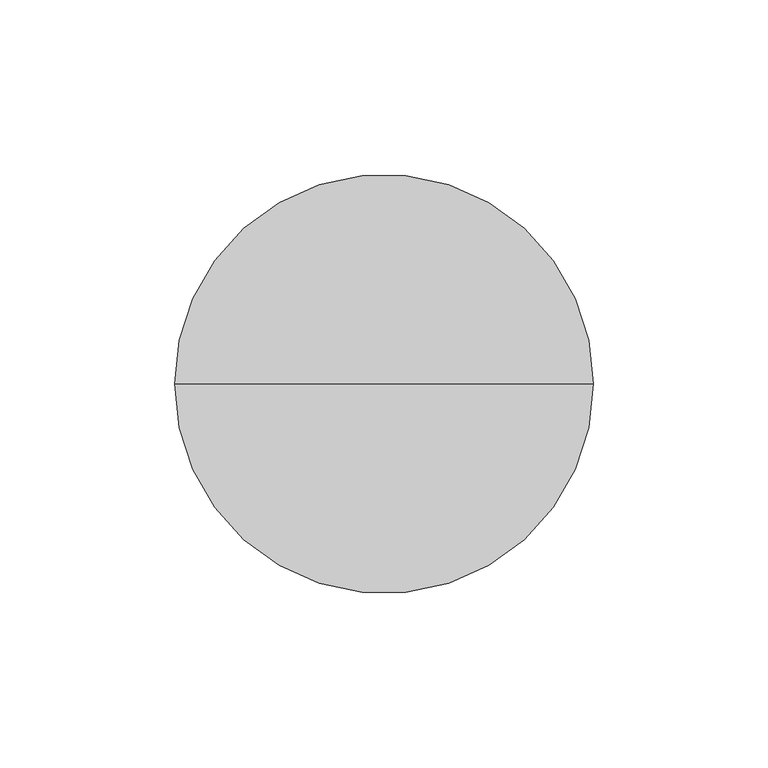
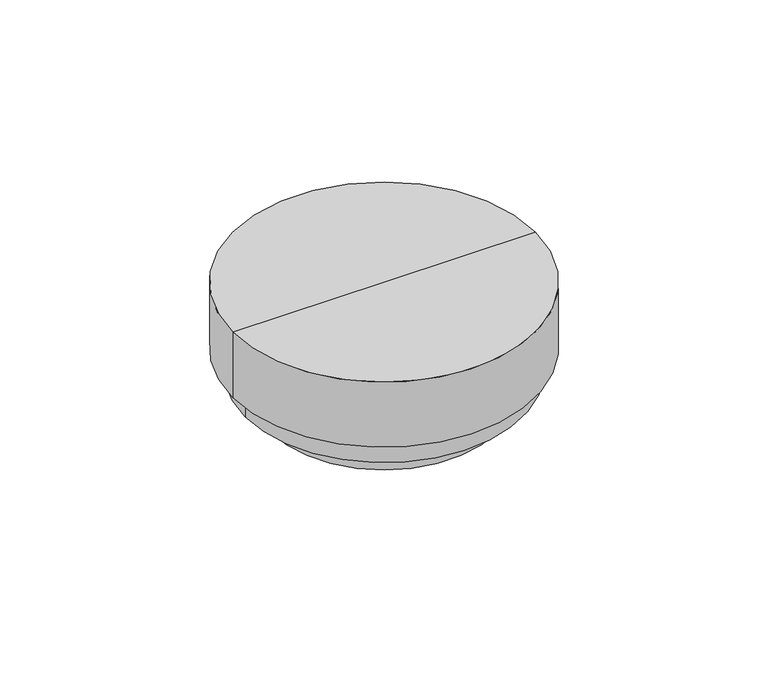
"""IFC4 building model written with IfcOpenShell, lengths in millimetres: alarm geometry, Rökdetektor dold : Rökdetektor dold."""

from ifc_helpers import new_model, si_unit, frame, origin, place, context, project, spatial, circle_curve, source, transform, mapped, element, save
from ifc_brep_helpers import plane_surface, cylinder_surface, advanced_brep


def alarm_d4f96eb5(model_context):
    return source(origin(), model_context, "Body", "AdvancedBrep", [
        advanced_brep(
        [(-60.0, 0.0, 2172.6505767), (60.0, 0.0, 2172.6505767), (55.0, 0.0, 2172.6505767), (-55.0, 0.0, 2172.6505767), (-60.0, 0.0, 2200.0), (60.0, 0.0, 2200.0), (0.0, 0.0, 2200.0), (-45.0, 0.0, 2152.6505767), (45.0, 0.0, 2152.6505767), (0.0, 0.0, 2152.6505767), (-45.0, 0.0, 2162.6505767), (45.0, 0.0, 2162.6505767), (-55.0, 0.0, 2162.6505767), (55.0, 0.0, 2162.6505767)],
        [
            (0, 1, circle_curve(frame((0.0, 0.0, 2172.6505767), z_axis=(0.0, 0.0, -1.0), x_axis=(1.0, 0.0, 0.0)), 60.0)),
            (1, 2),
            (2, 3, circle_curve(frame((0.0, 0.0, 2172.6505767), z_axis=(0.0, 0.0, 1.0), x_axis=(1.0, 0.0, 0.0)), 55.0)),
            (3, 0),
            (1, 0, circle_curve(frame((0.0, 0.0, 2172.6505767), z_axis=(0.0, 0.0, -1.0), x_axis=(1.0, 0.0, 0.0)), 60.0)),
            (3, 2, circle_curve(frame((0.0, 0.0, 2172.6505767), z_axis=(0.0, 0.0, 1.0), x_axis=(1.0, 0.0, 0.0)), 55.0)),
            (4, 5, circle_curve(frame((0.0, 0.0, 2200.0), z_axis=(0.0, 0.0, -1.0), x_axis=(1.0, 0.0, 0.0)), 60.0)),
            (5, 1),
            (0, 4),
            (5, 4, circle_curve(frame((0.0, 0.0, 2200.0), z_axis=(0.0, 0.0, -1.0), x_axis=(1.0, 0.0, 0.0)), 60.0)),
            (6, 5),
            (4, 6),
            (7, 8, circle_curve(frame((0.0, 0.0, 2152.6505767), z_axis=(0.0, 0.0, -1.0), x_axis=(1.0, 0.0, 0.0)), 45.0)),
            (8, 9),
            (9, 7),
            (8, 7, circle_curve(frame((0.0, 0.0, 2152.6505767), z_axis=(0.0, 0.0, -1.0), x_axis=(1.0, 0.0, 0.0)), 45.0)),
            (10, 11, circle_curve(frame((0.0, 0.0, 2162.6505767), z_axis=(0.0, 0.0, -1.0), x_axis=(1.0, 0.0, 0.0)), 45.0)),
            (11, 8),
            (7, 10),
            (11, 10, circle_curve(frame((0.0, 0.0, 2162.6505767), z_axis=(0.0, 0.0, -1.0), x_axis=(1.0, 0.0, 0.0)), 45.0)),
            (12, 13, circle_curve(frame((0.0, 0.0, 2162.6505767), z_axis=(0.0, 0.0, -1.0), x_axis=(1.0, 0.0, 0.0)), 55.0)),
            (13, 11),
            (10, 12),
            (13, 12, circle_curve(frame((0.0, 0.0, 2162.6505767), z_axis=(0.0, 0.0, -1.0), x_axis=(1.0, 0.0, 0.0)), 55.0)),
            (2, 13),
            (12, 3),
        ],
        [
            plane_surface(frame((0.0, 0.0, 2172.6505767), z_axis=(0.0, 0.0, -1.0), x_axis=(1.0, 0.0, 0.0))),
            cylinder_surface(frame((0.0, 0.0, 2152.6505767), z_axis=(0.0, 0.0, 1.0), x_axis=(1.0, 0.0, 0.0)), 60.0),
            plane_surface(frame((0.0, 0.0, 2200.0), z_axis=(0.0, 0.0, 1.0), x_axis=(1.0, 0.0, 0.0))),
            plane_surface(frame((0.0, 0.0, 2152.6505767), z_axis=(0.0, 0.0, -1.0), x_axis=(1.0, 0.0, 0.0))),
            cylinder_surface(frame((0.0, 0.0, 2152.6505767), z_axis=(0.0, 0.0, 1.0), x_axis=(1.0, 0.0, 0.0)), 45.0),
            plane_surface(frame((0.0, 0.0, 2162.6505767), z_axis=(0.0, 0.0, -1.0), x_axis=(1.0, 0.0, 0.0))),
            cylinder_surface(frame((0.0, 0.0, 2152.6505767), z_axis=(0.0, 0.0, 1.0), x_axis=(1.0, 0.0, 0.0)), 55.0),
        ],
        [
            (0, [[1, 2, 3, 4]]),
            (0, [[5, -4, 6, -2]]),
            (1, [[7, 8, -1, 9]]),
            (1, [[10, -9, -5, -8]]),
            (2, [[11, -7, 12]]),
            (2, [[-12, -10, -11]]),
            (3, [[13, 14, 15]]),
            (3, [[16, -15, -14]]),
            (4, [[17, 18, -13, 19]]),
            (4, [[20, -19, -16, -18]]),
            (5, [[21, 22, -17, 23]]),
            (5, [[24, -23, -20, -22]]),
            (6, [[-3, 25, -21, 26]]),
            (6, [[-6, -26, -24, -25]]),
        ],
    ),
    ])


if __name__ == "__main__":
    model = new_model("IFC4")
    model_context = context("Model", 3, world=origin())
    ifc_project = project(units=[si_unit("LENGTHUNIT", "METRE", prefix="MILLI")], contexts=[model_context])
    site = spatial("IfcSite", under=ifc_project)
    building = spatial("IfcBuilding", under=site)
    placement = place(None, origin())
    alarm_shape = alarm_d4f96eb5(model_context)
    element("IfcAlarm", 1, ObjectType="Rökdetektor dold : Rökdetektor dold", at=placement, inside=building, context=model_context, shape_type="MappedRepresentation", body=[
        mapped(alarm_shape, transform((0.0, 0.0, 0.0), x_axis=(1.0, 0.0, 0.0), y_axis=(0.0, 1.0, 0.0), z_axis=(0.0, 0.0, 1.0))),
    ])
    save(model, "model.ifc")
